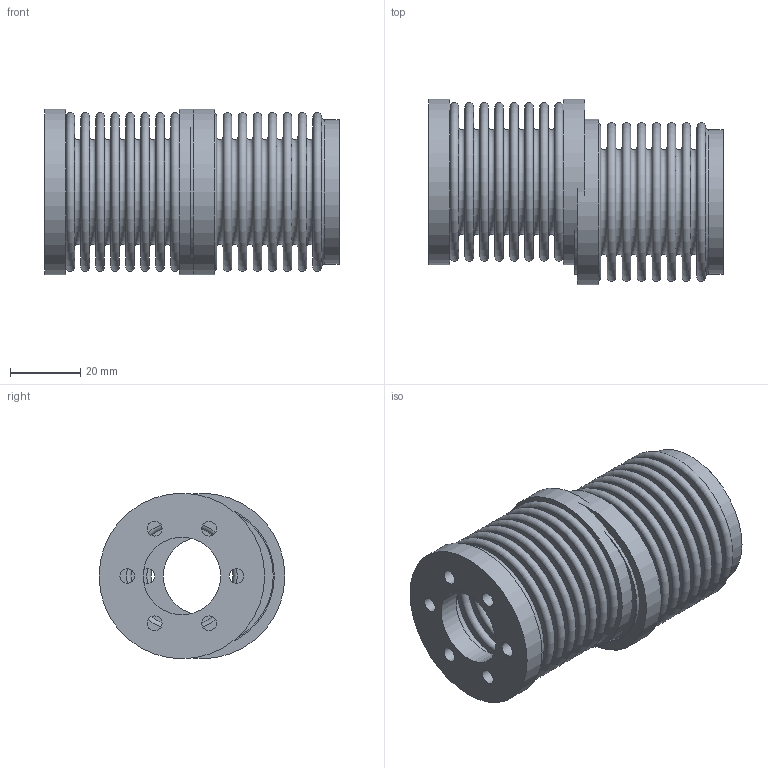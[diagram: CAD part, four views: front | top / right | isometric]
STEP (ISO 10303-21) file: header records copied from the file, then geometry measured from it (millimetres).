
FILE_DESCRIPTION( ( 'Unknown' ), '1' );
FILE_NAME( 'C:/Dokumente und Einstellungen/Sven/Desktop/homepage/cad - homepage/KB7/KB7-18-44.stp', 'Unknown', ( 'Unknown' ), ( 'Unknown' ), 'XStep 1.0', 'Unknown', ' ' );
FILE_SCHEMA( ( 'automotive_design' ) );
Length unit declared in the file: millimetre
Products named in the file (3): Assem1; FN18_Standard_0; BL18_Standard
Bounding box: 83.52 x 52.73 x 47 mm (x, y, z)
Volume: 32883.4 mm3; surface area: 79078.9 mm2
Topology: 5 solids, 5 shells, 166 faces, 282 edges, 186 vertices
Faces by surface type: plane 70, torus 64, cylinder 32
Full cylindrical faces by diameter (mm): 4.2 x18, 22 x3, 40.4 x4, 41 x4, 47 x3
Entity records: 1794 total; most frequent: DIRECTION 332, CARTESIAN_POINT 250, EDGE_LOOP 168, ORIENTED_EDGE 168, AXIS2_PLACEMENT_3D 166, FACE_OUTER_BOUND 122, EDGE_CURVE 84, VERTEX_POINT 84
